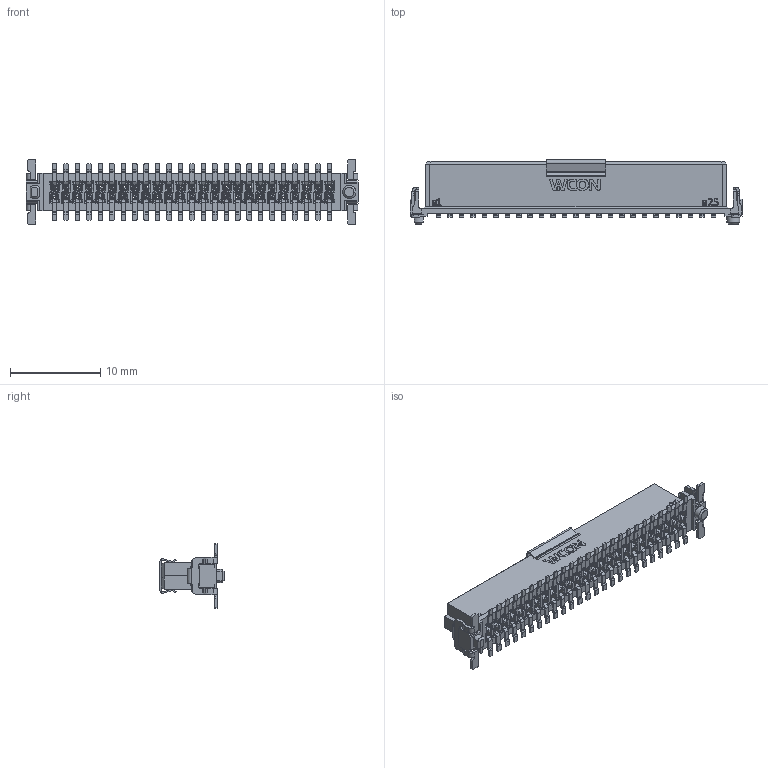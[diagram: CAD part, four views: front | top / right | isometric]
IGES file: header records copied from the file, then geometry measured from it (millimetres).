
Start section: ZWSOFT
Global section: file name: 3910-S050-062MXXWR1W.igs; native system: ZW3D; preprocessor: 1.0; author: ZW3D; organization: ZWSOFT; date: 230505.194724; units: millimetre
Bounding box: 36.83 x 7.1 x 7.2 mm (x, y, z)
Surface area: 2272.7 mm2 (no closed solid volume)
Topology: 0 solids, 0 shells, 7831 faces, 44591 edges, 44485 vertices
Faces by surface type: bspline 7831
